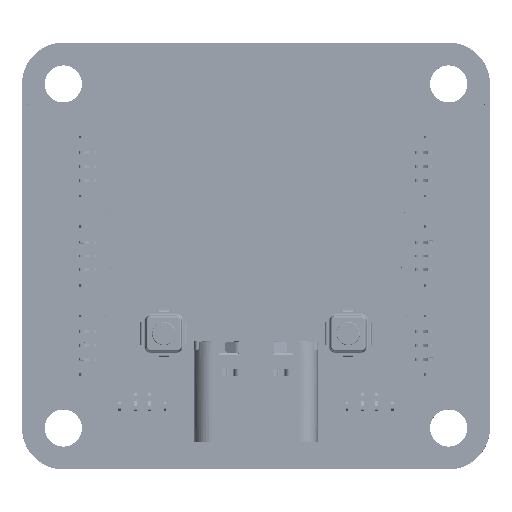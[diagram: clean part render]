
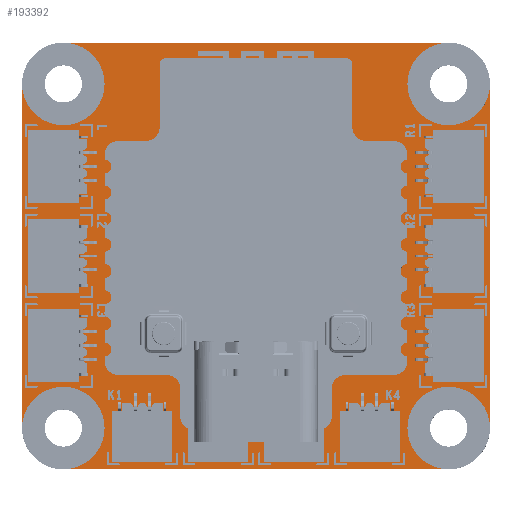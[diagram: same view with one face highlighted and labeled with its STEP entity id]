
A CAD part, top view. The second image highlights one B-rep face of the part: STEP entity #193392.
In plain terms, the highlighted planar face has unit normal (0, 0, 1).
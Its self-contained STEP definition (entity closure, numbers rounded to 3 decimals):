
#191945=DIRECTION('',(-1.,0.,0.));
#191946=VECTOR('',#191945,28.);
#191947=CARTESIAN_POINT('',(14.,15.5,
1.605));
#191948=LINE('',#191947,#191946);
#192117=CARTESIAN_POINT('',(-0.958,10.71,
1.605));
#192118=CARTESIAN_POINT('',(-0.968,10.672,
1.605));
#192119=CARTESIAN_POINT('',(-1.001,10.584,
1.605));
#192120=CARTESIAN_POINT('',(-1.087,10.471,
1.605));
#192121=CARTESIAN_POINT('',(-1.224,10.385,
1.605));
#192122=CARTESIAN_POINT('',(-1.391,10.353,
1.605));
#192123=CARTESIAN_POINT('',(-1.575,10.363,
1.605));
#192124=CARTESIAN_POINT('',(-1.771,10.443,
1.605));
#192125=CARTESIAN_POINT('',(-1.92,10.628,
1.605));
#192126=CARTESIAN_POINT('',(-1.956,10.842,
1.605));
#192127=CARTESIAN_POINT('',(-1.951,11.038,
1.605));
#192128=CARTESIAN_POINT('',(-1.914,11.202,
1.605));
#192129=CARTESIAN_POINT('',(-1.815,11.353,
1.605));
#192130=CARTESIAN_POINT('',(-1.697,11.442,
1.605));
#192131=CARTESIAN_POINT('',(-1.558,11.489,
1.605));
#192132=CARTESIAN_POINT('',(-1.411,11.501,
1.605));
#192133=CARTESIAN_POINT('',(-1.232,11.466,
1.605));
#192134=CARTESIAN_POINT('',(-1.084,11.356,
1.605));
#192135=CARTESIAN_POINT('',(-1.001,11.22,
1.605));
#192136=CARTESIAN_POINT('',(-0.961,11.086,
1.605));
#192137=CARTESIAN_POINT('',(-0.951,10.974,
1.605));
#192138=CARTESIAN_POINT('',(-0.952,10.901,
1.605));
#192139=CARTESIAN_POINT('',(-0.953,10.88,
1.605));
#192141=DIRECTION('',(-0.992,0.123,0.));
#192142=VECTOR('',#192141,0.192);
#192143=CARTESIAN_POINT('',(-0.958,10.71,
1.605));
#192144=LINE('',#192143,#192142);
#192145=CARTESIAN_POINT('',(-1.763,10.88,
1.605));
#192146=CARTESIAN_POINT('',(-1.761,10.847,
1.605));
#192147=CARTESIAN_POINT('',(-1.752,10.776,
1.605));
#192148=CARTESIAN_POINT('',(-1.716,10.667,
1.605));
#192149=CARTESIAN_POINT('',(-1.642,10.577,
1.605));
#192150=CARTESIAN_POINT('',(-1.546,10.523,
1.605));
#192151=CARTESIAN_POINT('',(-1.432,10.504,
1.605));
#192152=CARTESIAN_POINT('',(-1.29,10.526,
1.605));
#192153=CARTESIAN_POINT('',(-1.192,10.628,
1.605));
#192154=CARTESIAN_POINT('',(-1.157,10.706,
1.605));
#192155=CARTESIAN_POINT('',(-1.148,10.733,
1.605));
#192157=DIRECTION('',(1.,0.,0.));
#192158=VECTOR('',#192157,0.81);
#192159=CARTESIAN_POINT('',(-1.763,10.88,
1.605));
#192160=LINE('',#192159,#192158);
#192174=CARTESIAN_POINT('',(14.,-12.5,
1.605));
#192175=DIRECTION('',(0.,0.,1.));
#192176=DIRECTION('',(-1.,0.,0.));
#192177=AXIS2_PLACEMENT_3D('',#192174,#192175,#192176);
#192179=DIRECTION('',(0.,-1.,0.));
#192180=VECTOR('',#192179,25.);
#192181=CARTESIAN_POINT('',(17.,12.5,
1.605));
#192182=LINE('',#192181,#192180);
#192216=CARTESIAN_POINT('',(14.,12.5,
1.605));
#192217=DIRECTION('',(0.,0.,1.));
#192218=DIRECTION('',(0.,1.,0.));
#192219=AXIS2_PLACEMENT_3D('',#192216,#192217,#192218);
#192246=CARTESIAN_POINT('',(-14.,12.5,
1.605));
#192247=DIRECTION('',(0.,0.,1.));
#192248=DIRECTION('',(1.,0.,0.));
#192249=AXIS2_PLACEMENT_3D('',#192246,#192247,#192248);
#192259=DIRECTION('',(0.,1.,0.));
#192260=VECTOR('',#192259,25.);
#192261=CARTESIAN_POINT('',(-17.,-12.5,1.605));
#192262=LINE('',#192261,#192260);
#192280=CARTESIAN_POINT('',(-14.,-12.5,
1.605));
#192281=DIRECTION('',(0.,0.,1.));
#192282=DIRECTION('',(0.,-1.,0.));
#192283=AXIS2_PLACEMENT_3D('',#192280,#192281,#192282);
#192289=DIRECTION('',(-1.,0.,0.));
#192290=VECTOR('',#192289,28.);
#192291=CARTESIAN_POINT('',(14.,-15.5,
1.605));
#192292=LINE('',#192291,#192290);
#192306=CARTESIAN_POINT('',(14.,-12.5,
1.605));
#192307=DIRECTION('',(0.,0.,1.));
#192308=DIRECTION('',(1.,0.,0.));
#192309=AXIS2_PLACEMENT_3D('',#192306,#192307,#192308);
#192388=CARTESIAN_POINT('',(14.,12.5,
1.605));
#192389=DIRECTION('',(0.,0.,1.));
#192390=DIRECTION('',(-1.,0.,0.));
#192391=AXIS2_PLACEMENT_3D('',#192388,#192389,#192390);
#192462=CARTESIAN_POINT('',(-14.,12.5,
1.605));
#192463=DIRECTION('',(0.,0.,1.));
#192464=DIRECTION('',(-1.,0.,0.));
#192465=AXIS2_PLACEMENT_3D('',#192462,#192463,#192464);
#192544=CARTESIAN_POINT('',(-14.,-12.5,
1.605));
#192545=DIRECTION('',(0.,0.,1.));
#192546=DIRECTION('',(1.,0.,0.));
#192547=AXIS2_PLACEMENT_3D('',#192544,#192545,#192546);
#193077=CARTESIAN_POINT('',(11.,-12.5,1.605));
#193078=CARTESIAN_POINT('',(14.,-15.5,
1.605));
#193079=VERTEX_POINT('',#193077);
#193080=VERTEX_POINT('',#193078);
#193081=CARTESIAN_POINT('',(17.,-12.5,
1.605));
#193082=VERTEX_POINT('',#193081);
#193089=CARTESIAN_POINT('',(-17.,12.5,1.605));
#193090=CARTESIAN_POINT('',(-11.,12.5,
1.605));
#193091=VERTEX_POINT('',#193089);
#193092=VERTEX_POINT('',#193090);
#193093=CARTESIAN_POINT('',(-14.,15.5,
1.605));
#193094=VERTEX_POINT('',#193093);
#193101=CARTESIAN_POINT('',(11.,12.5,1.605));
#193102=CARTESIAN_POINT('',(17.,12.5,
1.605));
#193103=VERTEX_POINT('',#193101);
#193104=VERTEX_POINT('',#193102);
#193105=CARTESIAN_POINT('',(14.,15.5,
1.605));
#193106=VERTEX_POINT('',#193105);
#193113=CARTESIAN_POINT('',(-14.,-15.5,
1.605));
#193114=CARTESIAN_POINT('',(-11.,-12.5,
1.605));
#193115=VERTEX_POINT('',#193113);
#193116=VERTEX_POINT('',#193114);
#193117=CARTESIAN_POINT('',(-17.,-12.5,1.605));
#193118=VERTEX_POINT('',#193117);
#193330=VERTEX_POINT('',#192117);
#193331=VERTEX_POINT('',#192139);
#193332=CARTESIAN_POINT('',(-1.148,10.733,
1.605));
#193333=VERTEX_POINT('',#193332);
#193334=VERTEX_POINT('',#192145);
#193351=CARTESIAN_POINT('',(0.,0.,1.605));
#193352=DIRECTION('',(0.,0.,1.));
#193353=DIRECTION('',(1.,0.,0.));
#193354=AXIS2_PLACEMENT_3D('',#193351,#193352,#193353);
#193355=PLANE('',#193354);
#193357=ORIENTED_EDGE('',*,*,#193356,.T.);
#193359=ORIENTED_EDGE('',*,*,#193358,.T.);
#193361=ORIENTED_EDGE('',*,*,#193360,.T.);
#193363=ORIENTED_EDGE('',*,*,#193362,.T.);
#193365=ORIENTED_EDGE('',*,*,#193364,.T.);
#193367=ORIENTED_EDGE('',*,*,#193366,.T.);
#193369=ORIENTED_EDGE('',*,*,#193368,.T.);
#193371=ORIENTED_EDGE('',*,*,#193370,.F.);
#193373=ORIENTED_EDGE('',*,*,#193372,.T.);
#193375=ORIENTED_EDGE('',*,*,#193374,.T.);
#193377=ORIENTED_EDGE('',*,*,#193376,.T.);
#193379=ORIENTED_EDGE('',*,*,#193378,.T.);
#193380=EDGE_LOOP('',(#193357,#193359,#193361,#193363,#193365,#193367,#193369,
#193371,#193373,#193375,#193377,#193379));
#193381=FACE_OUTER_BOUND('',#193380,.F.);
#193383=ORIENTED_EDGE('',*,*,#193382,.F.);
#193385=ORIENTED_EDGE('',*,*,#193384,.T.);
#193387=ORIENTED_EDGE('',*,*,#193386,.F.);
#193389=ORIENTED_EDGE('',*,*,#193388,.T.);
#193390=EDGE_LOOP('',(#193383,#193385,#193387,#193389));
#193391=FACE_BOUND('',#193390,.F.);
#193392=ADVANCED_FACE('',(#193381,#193391),#193355,.T.);
#192140=B_SPLINE_CURVE_WITH_KNOTS('',3,(#192117,#192118,#192119,#192120,#192121,
#192122,#192123,#192124,#192125,#192126,#192127,#192128,#192129,#192130,#192131,
#192132,#192133,#192134,#192135,#192136,#192137,#192138,#192139),.UNSPECIFIED.,
.F.,.F.,(4,1,1,1,1,1,1,1,1,1,1,1,1,1,1,1,1,1,1,1,4),(0.,0.036,
0.086,0.128,0.182,0.24,
0.296,0.372,0.448,0.491,
0.554,0.6,0.654,0.687,
0.734,0.788,0.852,0.897,
0.933,0.98,1.),.UNSPECIFIED.);
#192156=B_SPLINE_CURVE_WITH_KNOTS('',3,(#192145,#192146,#192147,#192148,#192149,
#192150,#192151,#192152,#192153,#192154,#192155),.UNSPECIFIED.,.F.,.F.,(4,1,1,1,
1,1,1,1,4),(0.,0.105,0.227,0.364,
0.467,0.573,0.731,0.905,1.),
.UNSPECIFIED.);
#192178=CIRCLE('',#192177,3.);
#192220=CIRCLE('',#192219,3.);
#192250=CIRCLE('',#192249,3.);
#192284=CIRCLE('',#192283,3.);
#192310=CIRCLE('',#192309,3.);
#192392=CIRCLE('',#192391,3.);
#192466=CIRCLE('',#192465,3.);
#192548=CIRCLE('',#192547,3.);
#193356=EDGE_CURVE('',#193079,#193080,#192178,.T.);
#193358=EDGE_CURVE('',#193080,#193115,#192292,.T.);
#193360=EDGE_CURVE('',#193115,#193116,#192284,.T.);
#193362=EDGE_CURVE('',#193116,#193118,#192548,.T.);
#193364=EDGE_CURVE('',#193118,#193091,#192262,.T.);
#193366=EDGE_CURVE('',#193091,#193092,#192466,.T.);
#193368=EDGE_CURVE('',#193092,#193094,#192250,.T.);
#193370=EDGE_CURVE('',#193106,#193094,#191948,.T.);
#193372=EDGE_CURVE('',#193106,#193103,#192220,.T.);
#193374=EDGE_CURVE('',#193103,#193104,#192392,.T.);
#193376=EDGE_CURVE('',#193104,#193082,#192182,.T.);
#193378=EDGE_CURVE('',#193082,#193079,#192310,.T.);
#193382=EDGE_CURVE('',#193330,#193331,#192140,.T.);
#193384=EDGE_CURVE('',#193330,#193333,#192144,.T.);
#193386=EDGE_CURVE('',#193334,#193333,#192156,.T.);
#193388=EDGE_CURVE('',#193334,#193331,#192160,.T.);
